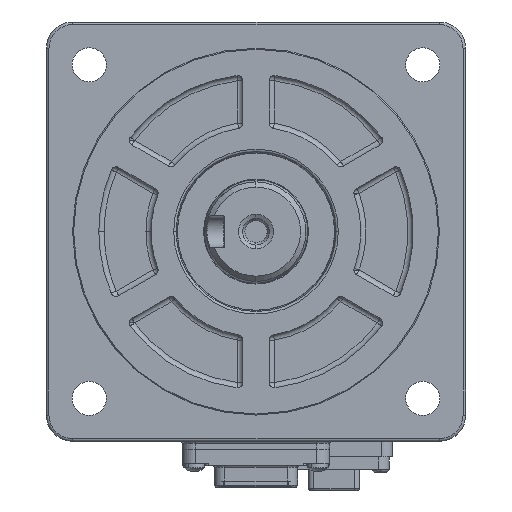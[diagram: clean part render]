
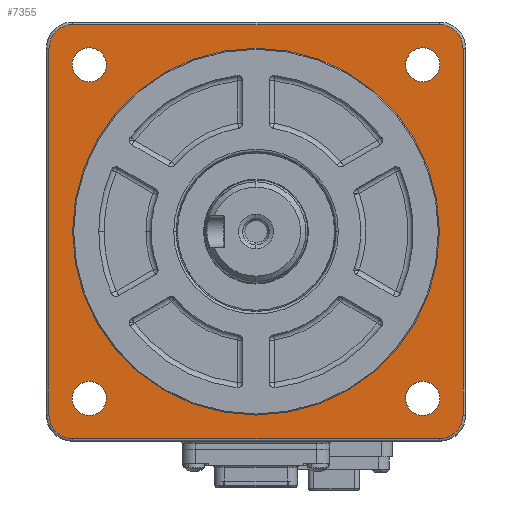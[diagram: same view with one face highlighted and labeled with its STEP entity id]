
A CAD part, left-side view. The second image highlights one B-rep face of the part: STEP entity #7355.
In plain terms, the highlighted planar face has unit normal (-1, 0, 0).
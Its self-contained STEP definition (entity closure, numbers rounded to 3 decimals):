
#289 = VERTEX_POINT('',#290);
#290 = CARTESIAN_POINT('',(19.738,35.,0.));
#296 = EDGE_CURVE('',#289,#297,#299,.T.);
#297 = VERTEX_POINT('',#298);
#298 = CARTESIAN_POINT('',(19.738,-35.,0.));
#299 = CIRCLE('',#300,35.);
#300 = AXIS2_PLACEMENT_3D('',#301,#302,#303);
#301 = CARTESIAN_POINT('',(19.738,0.,
    0.));
#302 = DIRECTION('',(-1.,0.,0.));
#303 = DIRECTION('',(0.,1.,0.));
#322 = VERTEX_POINT('',#323);
#323 = CARTESIAN_POINT('',(19.738,35.07,
    31.82));
#329 = EDGE_CURVE('',#330,#322,#332,.T.);
#330 = VERTEX_POINT('',#331);
#331 = CARTESIAN_POINT('',(19.738,28.57,
    31.82));
#332 = CIRCLE('',#333,3.25);
#333 = AXIS2_PLACEMENT_3D('',#334,#335,#336);
#334 = CARTESIAN_POINT('',(19.738,31.82,
    31.82));
#335 = DIRECTION('',(-1.,0.,0.));
#336 = DIRECTION('',(0.,1.,0.));
#364 = VERTEX_POINT('',#365);
#365 = CARTESIAN_POINT('',(19.738,35.07,
    -31.82));
#371 = EDGE_CURVE('',#372,#364,#374,.T.);
#372 = VERTEX_POINT('',#373);
#373 = CARTESIAN_POINT('',(19.738,28.57,
    -31.82));
#374 = CIRCLE('',#375,3.25);
#375 = AXIS2_PLACEMENT_3D('',#376,#377,#378);
#376 = CARTESIAN_POINT('',(19.738,31.82,
    -31.82));
#377 = DIRECTION('',(-1.,0.,0.));
#378 = DIRECTION('',(0.,1.,0.));
#406 = VERTEX_POINT('',#407);
#407 = CARTESIAN_POINT('',(19.738,-28.57,
    31.82));
#413 = EDGE_CURVE('',#414,#406,#416,.T.);
#414 = VERTEX_POINT('',#415);
#415 = CARTESIAN_POINT('',(19.738,-35.07,
    31.82));
#416 = CIRCLE('',#417,3.25);
#417 = AXIS2_PLACEMENT_3D('',#418,#419,#420);
#418 = CARTESIAN_POINT('',(19.738,-31.82,
    31.82));
#419 = DIRECTION('',(-1.,0.,0.));
#420 = DIRECTION('',(0.,1.,0.));
#448 = VERTEX_POINT('',#449);
#449 = CARTESIAN_POINT('',(19.738,-28.57,
    -31.82));
#455 = EDGE_CURVE('',#456,#448,#458,.T.);
#456 = VERTEX_POINT('',#457);
#457 = CARTESIAN_POINT('',(19.738,-35.07,
    -31.82));
#458 = CIRCLE('',#459,3.25);
#459 = AXIS2_PLACEMENT_3D('',#460,#461,#462);
#460 = CARTESIAN_POINT('',(19.738,-31.82,
    -31.82));
#461 = DIRECTION('',(-1.,0.,0.));
#462 = DIRECTION('',(0.,1.,0.));
#3579 = EDGE_CURVE('',#448,#456,#3580,.T.);
#3580 = CIRCLE('',#3581,3.25);
#3581 = AXIS2_PLACEMENT_3D('',#3582,#3583,#3584);
#3582 = CARTESIAN_POINT('',(19.738,-31.82,
    -31.82));
#3583 = DIRECTION('',(-1.,0.,0.));
#3584 = DIRECTION('',(0.,1.,0.));
#4245 = EDGE_CURVE('',#406,#414,#4246,.T.);
#4246 = CIRCLE('',#4247,3.25);
#4247 = AXIS2_PLACEMENT_3D('',#4248,#4249,#4250);
#4248 = CARTESIAN_POINT('',(19.738,-31.82,
    31.82));
#4249 = DIRECTION('',(-1.,0.,0.));
#4250 = DIRECTION('',(0.,1.,0.));
#4899 = EDGE_CURVE('',#364,#372,#4900,.T.);
#4900 = CIRCLE('',#4901,3.25);
#4901 = AXIS2_PLACEMENT_3D('',#4902,#4903,#4904);
#4902 = CARTESIAN_POINT('',(19.738,31.82,
    -31.82));
#4903 = DIRECTION('',(-1.,0.,0.));
#4904 = DIRECTION('',(0.,1.,0.));
#5565 = EDGE_CURVE('',#322,#330,#5566,.T.);
#5566 = CIRCLE('',#5567,3.25);
#5567 = AXIS2_PLACEMENT_3D('',#5568,#5569,#5570);
#5568 = CARTESIAN_POINT('',(19.738,31.82,
    31.82));
#5569 = DIRECTION('',(-1.,0.,0.));
#5570 = DIRECTION('',(0.,1.,0.));
#7156 = VERTEX_POINT('',#7157);
#7157 = CARTESIAN_POINT('',(19.738,39.5,-35.));
#7166 = VERTEX_POINT('',#7167);
#7167 = CARTESIAN_POINT('',(19.738,35.,-39.5));
#7174 = EDGE_CURVE('',#7156,#7166,#7175,.T.);
#7175 = CIRCLE('',#7176,4.5);
#7176 = AXIS2_PLACEMENT_3D('',#7177,#7178,#7179);
#7177 = CARTESIAN_POINT('',(19.738,35.,-35.));
#7178 = DIRECTION('',(-1.,0.,0.));
#7179 = DIRECTION('',(0.,1.,0.));
#7190 = VERTEX_POINT('',#7191);
#7191 = CARTESIAN_POINT('',(19.738,-35.,-39.5));
#7198 = EDGE_CURVE('',#7166,#7190,#7199,.T.);
#7199 = LINE('',#7200,#7201);
#7200 = CARTESIAN_POINT('',(19.738,0.,-39.5));
#7201 = VECTOR('',#7202,1.);
#7202 = DIRECTION('',(0.,-1.,0.));
#7215 = VERTEX_POINT('',#7216);
#7216 = CARTESIAN_POINT('',(19.738,-39.5,-35.));
#7223 = EDGE_CURVE('',#7190,#7215,#7224,.T.);
#7224 = CIRCLE('',#7225,4.5);
#7225 = AXIS2_PLACEMENT_3D('',#7226,#7227,#7228);
#7226 = CARTESIAN_POINT('',(19.738,-35.,-35.));
#7227 = DIRECTION('',(-1.,0.,0.));
#7228 = DIRECTION('',(0.,1.,0.));
#7241 = VERTEX_POINT('',#7242);
#7242 = CARTESIAN_POINT('',(19.738,-39.5,35.));
#7249 = EDGE_CURVE('',#7215,#7241,#7250,.T.);
#7250 = LINE('',#7251,#7252);
#7251 = CARTESIAN_POINT('',(19.738,-39.5,35.));
#7252 = VECTOR('',#7253,1.);
#7253 = DIRECTION('',(0.,0.,1.));
#7268 = VERTEX_POINT('',#7269);
#7269 = CARTESIAN_POINT('',(19.738,-35.,39.5));
#7276 = EDGE_CURVE('',#7241,#7268,#7277,.T.);
#7277 = CIRCLE('',#7278,4.5);
#7278 = AXIS2_PLACEMENT_3D('',#7279,#7280,#7281);
#7279 = CARTESIAN_POINT('',(19.738,-35.,35.));
#7280 = DIRECTION('',(-1.,0.,0.));
#7281 = DIRECTION('',(0.,1.,0.));
#7294 = VERTEX_POINT('',#7295);
#7295 = CARTESIAN_POINT('',(19.738,35.,39.5));
#7302 = EDGE_CURVE('',#7268,#7294,#7303,.T.);
#7303 = LINE('',#7304,#7305);
#7304 = CARTESIAN_POINT('',(19.738,35.,39.5));
#7305 = VECTOR('',#7306,1.);
#7306 = DIRECTION('',(0.,1.,0.));
#7319 = VERTEX_POINT('',#7320);
#7320 = CARTESIAN_POINT('',(19.738,39.5,35.));
#7327 = EDGE_CURVE('',#7294,#7319,#7328,.T.);
#7328 = CIRCLE('',#7329,4.5);
#7329 = AXIS2_PLACEMENT_3D('',#7330,#7331,#7332);
#7330 = CARTESIAN_POINT('',(19.738,35.,35.));
#7331 = DIRECTION('',(-1.,0.,0.));
#7332 = DIRECTION('',(0.,1.,0.));
#7345 = EDGE_CURVE('',#7319,#7156,#7346,.T.);
#7346 = LINE('',#7347,#7348);
#7347 = CARTESIAN_POINT('',(19.738,39.5,0.));
#7348 = VECTOR('',#7349,1.);
#7349 = DIRECTION('',(0.,0.,-1.));
#7355 = ADVANCED_FACE('',(#7356,#7366,#7376,#7380,#7384,#7388),#7392,.T.
  );
#7356 = FACE_BOUND('',#7357,.T.);
#7357 = EDGE_LOOP('',(#7358,#7359,#7360,#7361,#7362,#7363,#7364,#7365));
#7358 = ORIENTED_EDGE('',*,*,#7345,.T.);
#7359 = ORIENTED_EDGE('',*,*,#7174,.T.);
#7360 = ORIENTED_EDGE('',*,*,#7198,.T.);
#7361 = ORIENTED_EDGE('',*,*,#7223,.T.);
#7362 = ORIENTED_EDGE('',*,*,#7249,.T.);
#7363 = ORIENTED_EDGE('',*,*,#7276,.T.);
#7364 = ORIENTED_EDGE('',*,*,#7302,.T.);
#7365 = ORIENTED_EDGE('',*,*,#7327,.T.);
#7366 = FACE_BOUND('',#7367,.T.);
#7367 = EDGE_LOOP('',(#7368,#7375));
#7368 = ORIENTED_EDGE('',*,*,#7369,.F.);
#7369 = EDGE_CURVE('',#297,#289,#7370,.T.);
#7370 = CIRCLE('',#7371,35.);
#7371 = AXIS2_PLACEMENT_3D('',#7372,#7373,#7374);
#7372 = CARTESIAN_POINT('',(19.738,0.,
    0.));
#7373 = DIRECTION('',(-1.,0.,0.));
#7374 = DIRECTION('',(0.,1.,0.));
#7375 = ORIENTED_EDGE('',*,*,#296,.F.);
#7376 = FACE_BOUND('',#7377,.T.);
#7377 = EDGE_LOOP('',(#7378,#7379));
#7378 = ORIENTED_EDGE('',*,*,#5565,.F.);
#7379 = ORIENTED_EDGE('',*,*,#329,.F.);
#7380 = FACE_BOUND('',#7381,.T.);
#7381 = EDGE_LOOP('',(#7382,#7383));
#7382 = ORIENTED_EDGE('',*,*,#4245,.F.);
#7383 = ORIENTED_EDGE('',*,*,#413,.F.);
#7384 = FACE_BOUND('',#7385,.T.);
#7385 = EDGE_LOOP('',(#7386,#7387));
#7386 = ORIENTED_EDGE('',*,*,#3579,.F.);
#7387 = ORIENTED_EDGE('',*,*,#455,.F.);
#7388 = FACE_BOUND('',#7389,.T.);
#7389 = EDGE_LOOP('',(#7390,#7391));
#7390 = ORIENTED_EDGE('',*,*,#4899,.F.);
#7391 = ORIENTED_EDGE('',*,*,#371,.F.);
#7392 = PLANE('',#7393);
#7393 = AXIS2_PLACEMENT_3D('',#7394,#7395,#7396);
#7394 = CARTESIAN_POINT('',(19.738,0.,
    0.));
#7395 = DIRECTION('',(-1.,0.,0.));
#7396 = DIRECTION('',(0.,1.,0.));
